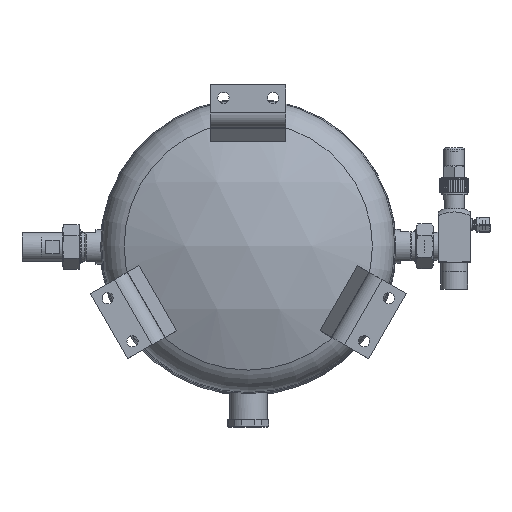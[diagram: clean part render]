
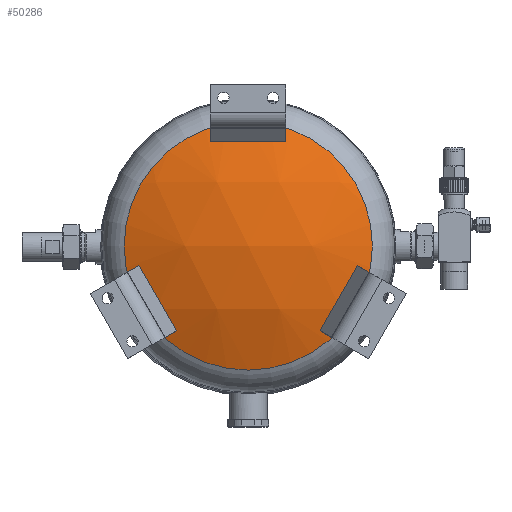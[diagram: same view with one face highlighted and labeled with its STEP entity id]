
A CAD part, top view. The second image highlights one B-rep face of the part: STEP entity #50286.
In plain terms, the highlighted spherical face has radius 281 mm.
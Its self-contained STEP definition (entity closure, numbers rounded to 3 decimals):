
#3856=SPHERICAL_SURFACE('',#54181,281.);
#14058=FACE_OUTER_BOUND('',#17232,.T.);
#17232=EDGE_LOOP('',(#45189));
#19189=CIRCLE('',#54180,115.74);
#23935=VERTEX_POINT('',#105332);
#31118=EDGE_CURVE('',#23935,#23935,#19189,.T.);
#45189=ORIENTED_EDGE('',*,*,#31118,.T.);
#50286=ADVANCED_FACE('',(#14058),#3856,.T.);
#54180=AXIS2_PLACEMENT_3D('',#105333,#64589,#64590);
#54181=AXIS2_PLACEMENT_3D('',#105334,#64591,#64592);
#64589=DIRECTION('center_axis',(0.,0.,1.));
#64590=DIRECTION('ref_axis',(-1.,0.,0.));
#64591=DIRECTION('center_axis',(0.,-1.,0.));
#64592=DIRECTION('ref_axis',(1.,0.,0.));
#105332=CARTESIAN_POINT('',(-115.74,0.,571.329));
#105333=CARTESIAN_POINT('Origin',(0.,0.,
571.329));
#105334=CARTESIAN_POINT('Origin',(0.,0.,
315.272));
